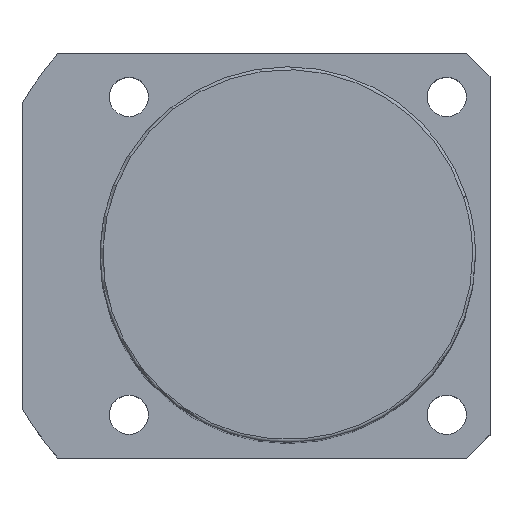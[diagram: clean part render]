
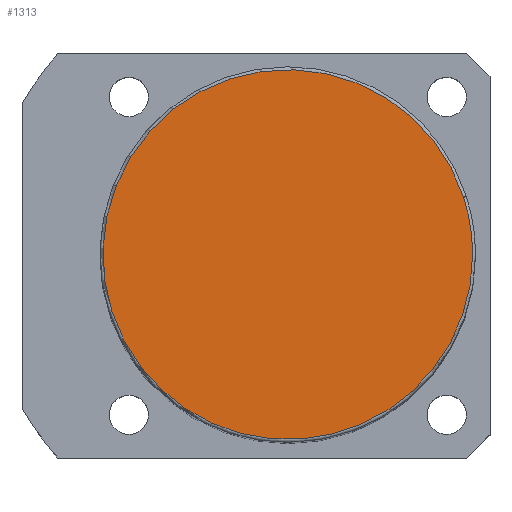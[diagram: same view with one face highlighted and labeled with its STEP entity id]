
A CAD part, top view. The second image highlights one B-rep face of the part: STEP entity #1313.
In plain terms, the highlighted planar face has unit normal (0, 0, 1).
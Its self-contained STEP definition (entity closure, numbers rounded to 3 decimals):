
#1279=CARTESIAN_POINT('',(32.0,0.0,141.0));
#1280=VERTEX_POINT('',#1279);
#1281=CARTESIAN_POINT('',(30.434,9.889,141.0));
#1282=VERTEX_POINT('',#1281);
#1283=CARTESIAN_POINT('',(0.0,0.0,141.0));
#1284=DIRECTION('',(0.0,0.0,1.0));
#1285=DIRECTION('',(1.0,0.0,0.0));
#1286=AXIS2_PLACEMENT_3D('',#1283,#1284,#1285);
#1287=CIRCLE('',#1286,32.0);
#1288=EDGE_CURVE('no 1846',#1280,#1282,#1287,.T.);
#1289=ORIENTED_EDGE('',*,*,#1288,.T.);
#1290=CARTESIAN_POINT('',(-30.434,-9.889,141.0));
#1291=VERTEX_POINT('',#1290);
#1292=CARTESIAN_POINT('',(0.0,0.0,141.0));
#1293=DIRECTION('',(0.0,0.0,1.0));
#1294=DIRECTION('',(1.0,0.0,0.0));
#1295=AXIS2_PLACEMENT_3D('',#1292,#1293,#1294);
#1296=CIRCLE('',#1295,32.0);
#1297=EDGE_CURVE('no 1852',#1282,#1291,#1296,.T.);
#1298=ORIENTED_EDGE('',*,*,#1297,.T.);
#1299=CARTESIAN_POINT('',(0.0,0.0,141.0));
#1300=DIRECTION('',(0.0,0.0,1.0));
#1301=DIRECTION('',(1.0,0.0,0.0));
#1302=AXIS2_PLACEMENT_3D('',#1299,#1300,#1301);
#1303=CIRCLE('',#1302,32.0);
#1304=EDGE_CURVE('no 1856',#1291,#1280,#1303,.T.);
#1305=ORIENTED_EDGE('',*,*,#1304,.T.);
#1306=EDGE_LOOP('',(#1289,#1298,#1305));
#1307=FACE_OUTER_BOUND('',#1306,.T.);
#1308=CARTESIAN_POINT('',(0.0,0.0,141.0));
#1309=DIRECTION('',(0.0,0.0,1.0));
#1310=DIRECTION('',(1.0,0.0,0.0));
#1311=AXIS2_PLACEMENT_3D('',#1308,#1309,#1310);
#1312=PLANE('',#1311);
#1313=ADVANCED_FACE('no 1837',(#1307),#1312,.T.);
